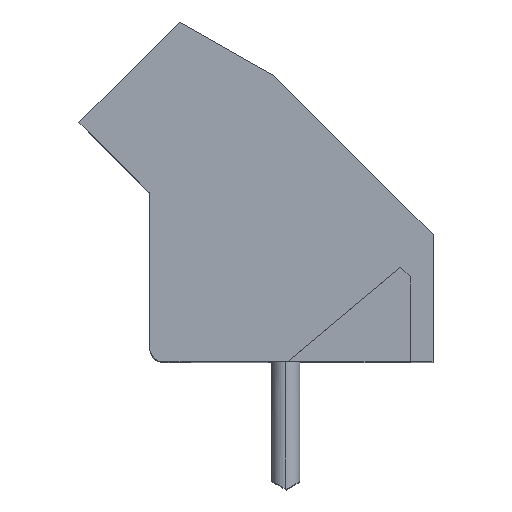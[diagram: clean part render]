
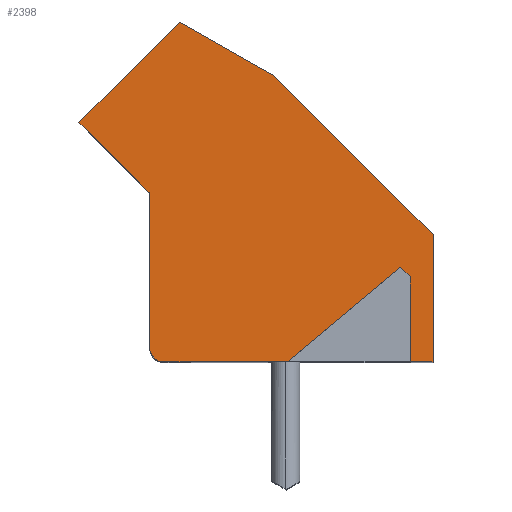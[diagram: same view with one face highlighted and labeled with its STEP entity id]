
A CAD part, top view. The second image highlights one B-rep face of the part: STEP entity #2398.
In plain terms, the highlighted planar face has unit normal (0, 0, 1).
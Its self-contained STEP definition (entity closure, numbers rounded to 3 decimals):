
#2027 = EDGE_CURVE ( 'NONE', #2028, #2029, #6377, .T. ) ;
#2028 = VERTEX_POINT ( 'NONE', #6372 ) ;
#2029 = VERTEX_POINT ( 'NONE', #6371 ) ;
#2124 = VERTEX_POINT ( 'NONE', #6505 ) ;
#2126 = EDGE_CURVE ( 'NONE', #2124, #2127, #6504, .T. ) ;
#2127 = VERTEX_POINT ( 'NONE', #6499 ) ;
#2220 = VERTEX_POINT ( 'NONE', #6599 ) ;
#2222 = EDGE_CURVE ( 'NONE', #2237, #2220, #6598, .T. ) ;
#2230 = EDGE_CURVE ( 'NONE', #2029, #2254, #6649, .T. ) ;
#2237 = VERTEX_POINT ( 'NONE', #6635 ) ;
#2239 = EDGE_CURVE ( 'NONE', #2254, #2237, #6634, .T. ) ;
#2247 = VERTEX_POINT ( 'NONE', #6684 ) ;
#2249 = EDGE_CURVE ( 'NONE', #2250, #2247, #6683, .T. ) ;
#2250 = VERTEX_POINT ( 'NONE', #6679 ) ;
#2254 = VERTEX_POINT ( 'NONE', #6674 ) ;
#2263 = EDGE_CURVE ( 'NONE', #2124, #2028, #6673, .T. ) ;
#2274 = EDGE_CURVE ( 'NONE', #2287, #2275, #6722, .T. ) ;
#2275 = VERTEX_POINT ( 'NONE', #6718 ) ;
#2287 = VERTEX_POINT ( 'NONE', #6713 ) ;
#2289 = EDGE_CURVE ( 'NONE', #2247, #2287, #6712, .T. ) ;
#2292 = EDGE_CURVE ( 'NONE', #2220, #2250, #6708, .T. ) ;
#2344 = EDGE_CURVE ( 'NONE', #2345, #2127, #6821, .T. ) ;
#2345 = VERTEX_POINT ( 'NONE', #6817 ) ;
#2387 = ORIENTED_EDGE ( 'NONE', *, *, #2388, .T. ) ;
#2388 = EDGE_CURVE ( 'NONE', #2395, #2345, #6915, .T. ) ;
#2389 = ORIENTED_EDGE ( 'NONE', *, *, #2344, .T. ) ;
#2395 = VERTEX_POINT ( 'NONE', #6953 ) ;
#2397 = EDGE_CURVE ( 'NONE', #2275, #2395, #6952, .T. ) ;
#2398 = ADVANCED_FACE ( 'NONE', ( #6948 ), #6947, .T. ) ;
#2399 = EDGE_LOOP ( 'NONE', ( #2400, #2401, #2402, #2403, #2404, #2406, #2407, #2470, #2471, #2472, #2473, #2387, #2389 ) ) ;
#2400 = ORIENTED_EDGE ( 'NONE', *, *, #2126, .F. ) ;
#2401 = ORIENTED_EDGE ( 'NONE', *, *, #2263, .T. ) ;
#2402 = ORIENTED_EDGE ( 'NONE', *, *, #2027, .T. ) ;
#2403 = ORIENTED_EDGE ( 'NONE', *, *, #2230, .T. ) ;
#2404 = ORIENTED_EDGE ( 'NONE', *, *, #2239, .T. ) ;
#2406 = ORIENTED_EDGE ( 'NONE', *, *, #2222, .T. ) ;
#2407 = ORIENTED_EDGE ( 'NONE', *, *, #2292, .T. ) ;
#2470 = ORIENTED_EDGE ( 'NONE', *, *, #2249, .T. ) ;
#2471 = ORIENTED_EDGE ( 'NONE', *, *, #2289, .T. ) ;
#2472 = ORIENTED_EDGE ( 'NONE', *, *, #2274, .T. ) ;
#2473 = ORIENTED_EDGE ( 'NONE', *, *, #2397, .T. ) ;
#6371 = CARTESIAN_POINT ( 'NONE',  ( 0.5, -0.016, 0. ) ) ;
#6372 = CARTESIAN_POINT ( 'NONE',  ( 0., 0.484, 0. ) ) ;
#6373 = DIRECTION ( 'NONE',  ( -1., 0., 0. ) ) ;
#6374 = DIRECTION ( 'NONE',  ( 0., 0., 1. ) ) ;
#6375 = CARTESIAN_POINT ( 'NONE',  ( 0.5, 0.484, 0. ) ) ;
#6376 = AXIS2_PLACEMENT_3D ( 'NONE', #6375, #6374, #6373 ) ;
#6377 = CIRCLE ( 'NONE', #6376, 0.5 ) ;
#6499 = CARTESIAN_POINT ( 'NONE',  ( -0.029, 5.978, 0. ) ) ;
#6500 = DIRECTION ( 'NONE',  ( 0., -1., 0. ) ) ;
#6501 = DIRECTION ( 'NONE',  ( 0., 0., 1. ) ) ;
#6502 = CARTESIAN_POINT ( 'NONE',  ( -0.1, 5.907, 0. ) ) ;
#6503 = AXIS2_PLACEMENT_3D ( 'NONE', #6502, #6501, #6500 ) ;
#6504 = CIRCLE ( 'NONE', #6503, 0.1 ) ;
#6505 = CARTESIAN_POINT ( 'NONE',  ( 0., 5.907, 0. ) ) ;
#6595 = DIRECTION ( 'NONE',  ( 0.707, -0.707, 0. ) ) ;
#6596 = VECTOR ( 'NONE', #6595, 1000. ) ;
#6597 = CARTESIAN_POINT ( 'NONE',  ( 8.85, 3.334, 0. ) ) ;
#6598 = LINE ( 'NONE', #6597, #6596 ) ;
#6599 = CARTESIAN_POINT ( 'NONE',  ( 9.2, 2.984, 0. ) ) ;
#6631 = DIRECTION ( 'NONE',  ( 0.766, 0.643, 0. ) ) ;
#6632 = VECTOR ( 'NONE', #6631, 1000. ) ;
#6633 = CARTESIAN_POINT ( 'NONE',  ( 4.858, -0.016, 0. ) ) ;
#6634 = LINE ( 'NONE', #6633, #6632 ) ;
#6635 = CARTESIAN_POINT ( 'NONE',  ( 8.85, 3.334, 0. ) ) ;
#6646 = DIRECTION ( 'NONE',  ( 1., 0., 0. ) ) ;
#6647 = VECTOR ( 'NONE', #6646, 1000. ) ;
#6648 = CARTESIAN_POINT ( 'NONE',  ( 3.713, -0.016, 0. ) ) ;
#6649 = LINE ( 'NONE', #6648, #6647 ) ;
#6670 = DIRECTION ( 'NONE',  ( 0., -1., 0. ) ) ;
#6671 = VECTOR ( 'NONE', #6670, 1000. ) ;
#6672 = CARTESIAN_POINT ( 'NONE',  ( 0., 6.02, 0. ) ) ;
#6673 = LINE ( 'NONE', #6672, #6671 ) ;
#6674 = CARTESIAN_POINT ( 'NONE',  ( 4.858, -0.016, 0. ) ) ;
#6679 = CARTESIAN_POINT ( 'NONE',  ( 9.2, -0.016, 0. ) ) ;
#6680 = DIRECTION ( 'NONE',  ( 1., 0., 0. ) ) ;
#6681 = VECTOR ( 'NONE', #6680, 1000. ) ;
#6682 = CARTESIAN_POINT ( 'NONE',  ( 5.25, -0.016, 0. ) ) ;
#6683 = LINE ( 'NONE', #6682, #6681 ) ;
#6684 = CARTESIAN_POINT ( 'NONE',  ( 10., -0.016, 0. ) ) ;
#6705 = DIRECTION ( 'NONE',  ( 0., -1., 0. ) ) ;
#6706 = VECTOR ( 'NONE', #6705, 1000. ) ;
#6707 = CARTESIAN_POINT ( 'NONE',  ( 9.2, 6.02, 0. ) ) ;
#6708 = LINE ( 'NONE', #6707, #6706 ) ;
#6709 = DIRECTION ( 'NONE',  ( 0., 1., 0. ) ) ;
#6710 = VECTOR ( 'NONE', #6709, 1000. ) ;
#6711 = CARTESIAN_POINT ( 'NONE',  ( 10., 6.02, 0. ) ) ;
#6712 = LINE ( 'NONE', #6711, #6710 ) ;
#6713 = CARTESIAN_POINT ( 'NONE',  ( 10., 4.484, 0. ) ) ;
#6718 = CARTESIAN_POINT ( 'NONE',  ( 4.411, 10.073, 0. ) ) ;
#6719 = DIRECTION ( 'NONE',  ( -0.707, 0.707, 0. ) ) ;
#6720 = VECTOR ( 'NONE', #6719, 1000. ) ;
#6721 = CARTESIAN_POINT ( 'NONE',  ( 10., 4.484, 0. ) ) ;
#6722 = LINE ( 'NONE', #6721, #6720 ) ;
#6817 = CARTESIAN_POINT ( 'NONE',  ( -2.5, 8.448, 0. ) ) ;
#6818 = DIRECTION ( 'NONE',  ( 0.707, -0.707, 0. ) ) ;
#6819 = VECTOR ( 'NONE', #6818, 1000. ) ;
#6820 = CARTESIAN_POINT ( 'NONE',  ( -2.5, 8.448, 0. ) ) ;
#6821 = LINE ( 'NONE', #6820, #6819 ) ;
#6912 = DIRECTION ( 'NONE',  ( -0.707, -0.707, 0. ) ) ;
#6913 = VECTOR ( 'NONE', #6912, 1000. ) ;
#6914 = CARTESIAN_POINT ( 'NONE',  ( -0.732, 10.216, 0. ) ) ;
#6915 = LINE ( 'NONE', #6914, #6913 ) ;
#6943 = DIRECTION ( 'NONE',  ( 1., 0., 0. ) ) ;
#6944 = DIRECTION ( 'NONE',  ( 0., 0., 1. ) ) ;
#6945 = CARTESIAN_POINT ( 'NONE',  ( -2.575, -0.016, 0. ) ) ;
#6946 = AXIS2_PLACEMENT_3D ( 'NONE', #6945, #6944, #6943 ) ;
#6947 = PLANE ( 'NONE',  #6946 ) ;
#6948 = FACE_OUTER_BOUND ( 'NONE', #2399, .T. ) ;
#6949 = DIRECTION ( 'NONE',  ( -0.87, 0.493, 0. ) ) ;
#6950 = VECTOR ( 'NONE', #6949, 1000. ) ;
#6951 = CARTESIAN_POINT ( 'NONE',  ( 4.411, 10.073, 0. ) ) ;
#6952 = LINE ( 'NONE', #6951, #6950 ) ;
#6953 = CARTESIAN_POINT ( 'NONE',  ( 1.036, 11.984, 0. ) ) ;
